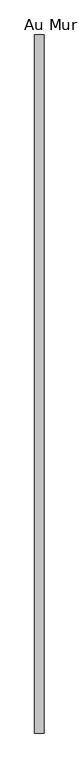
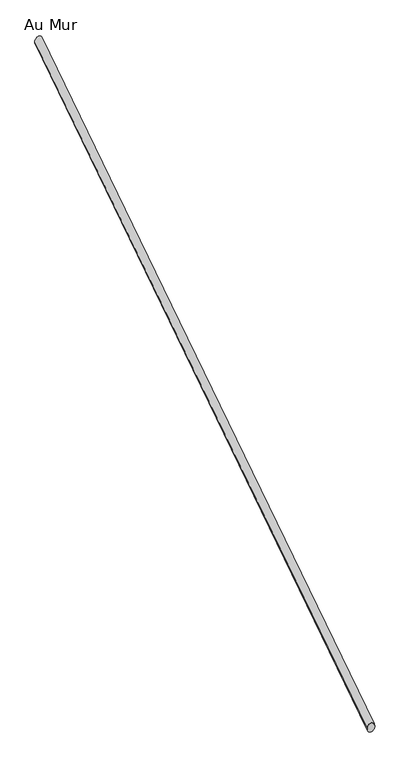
"""IFC4 building model written with IfcOpenShell, lengths in millimetres: railing geometry, Au Mur."""

from ifc_helpers import new_model, si_unit, frame, origin, place, context, project, spatial, ellipse_curve, source, transform, mapped, element, save
from ifc_brep_helpers import plane_surface, cylinder_surface, advanced_brep


def au_mur_dbd794a3(model_context):
    return source(origin(), model_context, "Body", "AdvancedBrep", [
        advanced_brep(
        [(-17203.6938634, 12978.7206382, 1958.5372957), (-17233.6938634, 12978.7206382, 1958.5372957), (-17203.6938634, 15218.7206382, 3423.761705), (-17233.6938634, 15218.7206382, 3423.761705)],
        [
            (0, 1, ellipse_curve(frame((-17218.6938634, 12978.7206382, 1958.5372957), z_axis=(0.0, -1.0, 0.0), x_axis=(0.0, 0.0, -1.0)), 17.9240297, 15.0)),
            (1, 0, ellipse_curve(frame((-17218.6938634, 12978.7206382, 1958.5372957), z_axis=(0.0, -1.0, 0.0), x_axis=(0.0, 0.0, -1.0)), 17.9240297, 15.0)),
            (2, 3, ellipse_curve(frame((-17218.6938634, 15218.7206382, 3423.761705), z_axis=(0.0, 1.0, 0.0), x_axis=(0.0, 0.0, -1.0)), 17.9240297, 15.0)),
            (3, 2, ellipse_curve(frame((-17218.6938634, 15218.7206382, 3423.761705), z_axis=(0.0, 1.0, 0.0), x_axis=(0.0, 0.0, -1.0)), 17.9240297, 15.0)),
            (0, 2),
            (3, 1),
        ],
        [
            plane_surface(frame((-17218.6938634, 12978.7206382, 1976.4613254), z_axis=(0.0, -1.0, 0.0), x_axis=(0.0, 0.0, 1.0))),
            plane_surface(frame((-17218.6938634, 15218.7206382, 3441.6857348), z_axis=(0.0, 1.0, 0.0), x_axis=(0.0, 0.0, 1.0))),
            cylinder_surface(frame((-17218.6938634, 12986.9317693, 1963.9083447), z_axis=(0.0, -0.8368653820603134, -0.547408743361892), x_axis=(-1.0, 0.0, 0.0)), 15.0),
        ],
        [
            (0, [[1, 2]]),
            (1, [[3, 4]]),
            (2, [[-1, 5, -4, 6]]),
            (2, [[-2, -6, -3, -5]]),
        ],
    ),
    ])


if __name__ == "__main__":
    model = new_model("IFC4")
    model_context = context("Model", 3, world=origin())
    ifc_project = project(units=[si_unit("LENGTHUNIT", "METRE", prefix="MILLI")], contexts=[model_context])
    site = spatial("IfcSite", under=ifc_project)
    building = spatial("IfcBuilding", under=site)
    placement = place(None, origin())
    au_mur_shape = au_mur_dbd794a3(model_context)
    element("IfcRailing", 1, ObjectType="Au Mur", at=placement, inside=building, context=model_context, shape_type="MappedRepresentation", body=[
        mapped(au_mur_shape, transform((0.0, 0.0, 0.0), x_axis=(1.0, 0.0, 0.0), y_axis=(0.0, 1.0, 0.0), z_axis=(0.0, 0.0, 1.0))),
    ])
    save(model, "model.ifc")
